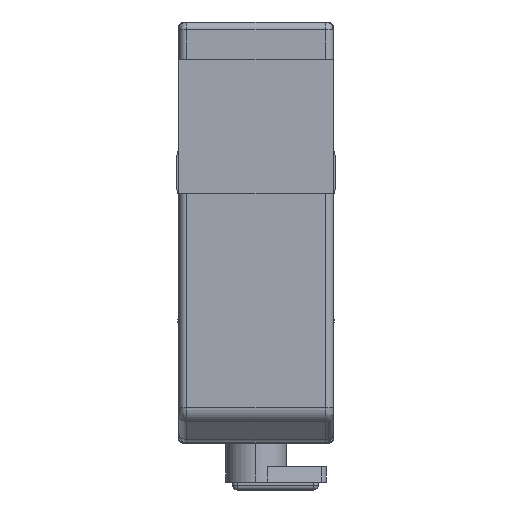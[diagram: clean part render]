
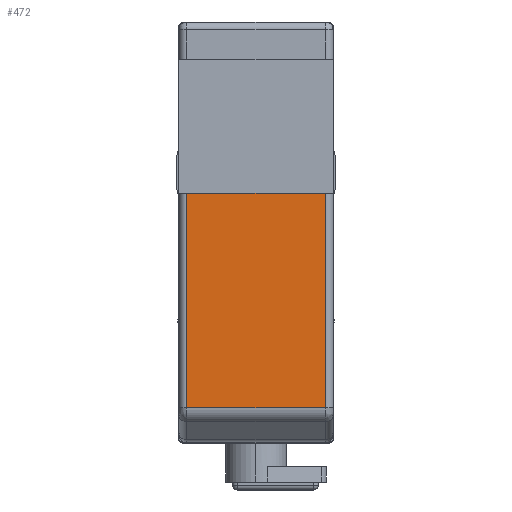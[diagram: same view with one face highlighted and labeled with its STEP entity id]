
A CAD part, top view. The second image highlights one B-rep face of the part: STEP entity #472.
In plain terms, the highlighted planar face has unit normal (0, 0, 1).
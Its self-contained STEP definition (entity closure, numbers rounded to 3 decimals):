
#472=ADVANCED_FACE('',(#2327),#2326,.F.);
#2326=PLANE('',#4302);
#2327=FACE_OUTER_BOUND('',#4303,.T.);
#4299=CARTESIAN_POINT('',(5.34,-26.133,27.4));
#4300=DIRECTION('',(0.,0.,-1.));
#4301=DIRECTION('',(-1.,0.,0.));
#4302=AXIS2_PLACEMENT_3D('',#4299,#4300,#4301);
#4303=EDGE_LOOP('',(#5689,#5690,#5691,#5692));
#5689=ORIENTED_EDGE('',*,*,#6423,.F.);
#5690=ORIENTED_EDGE('',*,*,#6480,.T.);
#5691=ORIENTED_EDGE('',*,*,#6568,.T.);
#5692=ORIENTED_EDGE('',*,*,#6503,.T.);
#6423=EDGE_CURVE('',#8751,#8758,#8759,.T.);
#6480=EDGE_CURVE('',#8751,#9140,#9147,.T.);
#6503=EDGE_CURVE('',#9278,#8758,#9297,.T.);
#6568=EDGE_CURVE('',#9140,#9278,#9723,.T.);
#8751=VERTEX_POINT('',#12294);
#8758=VERTEX_POINT('',#12299);
#8759=LINE('',#12300,#12301);
#9140=VERTEX_POINT('',#12538);
#9147=LINE('',#12543,#12544);
#9278=VERTEX_POINT('',#12626);
#9297=LINE('',#12639,#12640);
#9723=LINE('',#12884,#12885);
#12294=CARTESIAN_POINT('',(-4.45,-11.,27.4));
#12299=CARTESIAN_POINT('',(4.45,-11.,27.4));
#12300=CARTESIAN_POINT('',(-4.45,-11.,27.4));
#12301=VECTOR('',#12302,8.9);
#12302=DIRECTION('',(1.,0.,0.));
#12538=CARTESIAN_POINT('',(-4.45,-24.758,27.4));
#12543=CARTESIAN_POINT('',(-4.45,-11.,27.4));
#12544=VECTOR('',#12545,13.758);
#12545=DIRECTION('',(0.,-1.,0.));
#12626=CARTESIAN_POINT('',(4.45,-24.758,27.4));
#12639=CARTESIAN_POINT('',(4.45,-24.758,27.4));
#12640=VECTOR('',#12641,13.758);
#12641=DIRECTION('',(0.,1.,0.));
#12884=CARTESIAN_POINT('',(-4.45,-24.758,27.4));
#12885=VECTOR('',#12886,8.9);
#12886=DIRECTION('',(1.,0.,0.));
